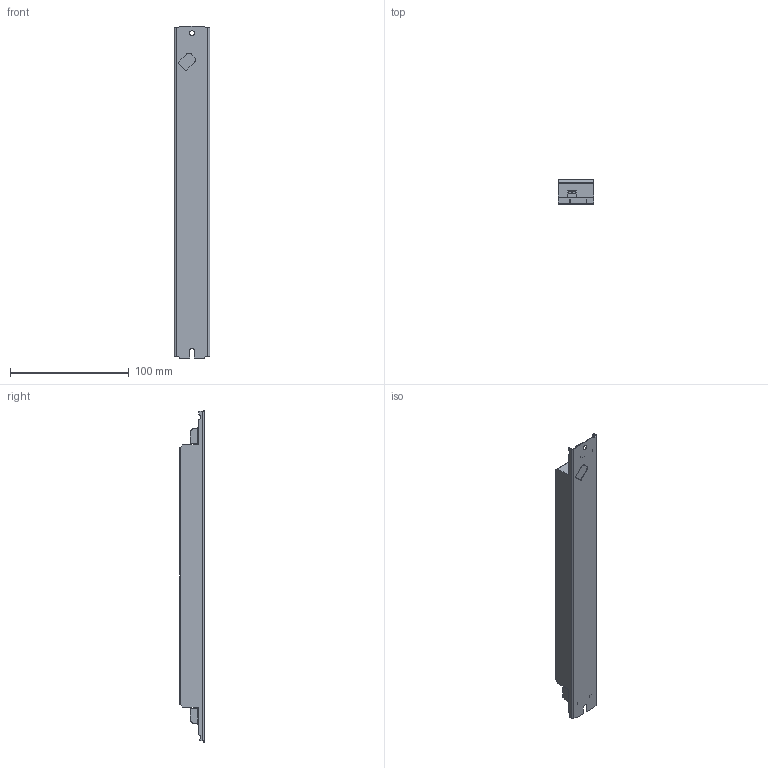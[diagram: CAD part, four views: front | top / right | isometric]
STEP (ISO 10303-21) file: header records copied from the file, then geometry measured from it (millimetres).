
FILE_DESCRIPTION((''),'2;1');
FILE_NAME('15006784Z','2011-11-29T',('juergen.hrach'),(''),'PRO/ENGINEER BY PARAMETRIC TECHNOLOGY CORPORATION, 2010480','PRO/ENGINEER BY PARAMETRIC TECHNOLOGY CORPORATION, 2010480','');
FILE_SCHEMA(('AUTOMOTIVE_DESIGN { 1 2 10303 214 0 1 1 1 }'));
Length unit declared in the file: millimetre
Products named in the file (1): 15006784Z
Bounding box: 30 x 21 x 280 mm (x, y, z)
Volume: 145761.6 mm3; surface area: 28148.6 mm2
Topology: 1 solids, 1 shells, 229 faces, 639 edges, 424 vertices
Faces by surface type: plane 136, cylinder 73, extrusion 20
Entity records: 9575 total; most frequent: CARTESIAN_POINT 1632, ORIENTED_EDGE 1278, DIRECTION 1131, PRESENTATION_STYLE_ASSIGNMENT 642, STYLED_ITEM 640, CURVE_STYLE 639, EDGE_CURVE 639, VECTOR 457
